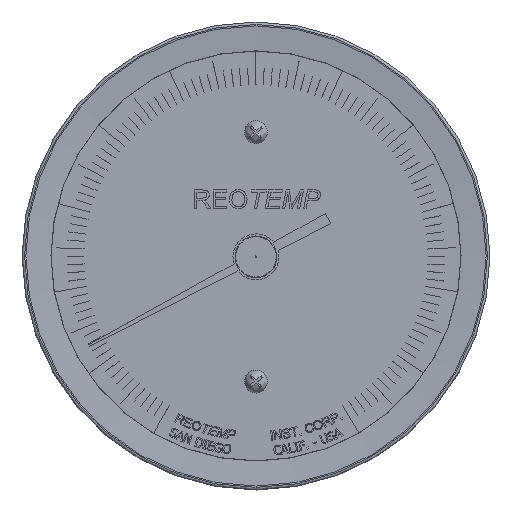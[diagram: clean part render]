
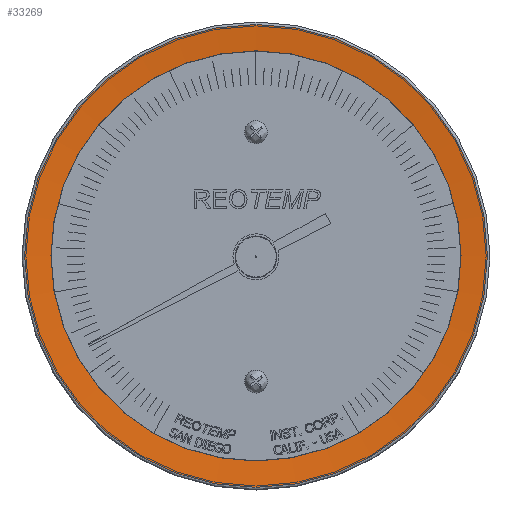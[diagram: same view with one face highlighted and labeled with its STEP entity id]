
A CAD part, top view. The second image highlights one B-rep face of the part: STEP entity #33269.
In plain terms, the highlighted conical face has half-angle 85 degrees and reference radius 36.331 mm.
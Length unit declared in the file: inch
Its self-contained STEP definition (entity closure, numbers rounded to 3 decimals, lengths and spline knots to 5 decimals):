
#10460=CONICAL_SURFACE($,#35014,1.43036,85.);
#11737=FACE_BOUND($,#13909,.T.);
#12234=FACE_OUTER_BOUND($,#13908,.T.);
#13908=EDGE_LOOP($,(#23999));
#13909=EDGE_LOOP($,(#24000));
#15991=CIRCLE($,#35013,1.33664);
#15992=CIRCLE($,#35015,1.50869);
#16080=VERTEX_POINT($,#42981);
#16081=VERTEX_POINT($,#42984);
#19238=EDGE_CURVE($,#16080,#16080,#15991,.T.);
#19239=EDGE_CURVE($,#16081,#16081,#15992,.T.);
#23999=ORIENTED_EDGE($,*,*,#19239,.F.);
#24000=ORIENTED_EDGE($,*,*,#19238,.F.);
#33269=ADVANCED_FACE($,(#12234,#11737),#10460,.F.);
#35013=AXIS2_PLACEMENT_3D($,#42982,#36453,#36454);
#35014=AXIS2_PLACEMENT_3D($,#42983,#36455,#36456);
#35015=AXIS2_PLACEMENT_3D($,#42985,#36457,#36458);
#36453=DIRECTION('center_axis',(0.,0.,
1.));
#36454=DIRECTION('ref_axis',(0.866,-0.5,0.));
#36455=DIRECTION('center_axis',(0.,0.,1.));
#36456=DIRECTION('ref_axis',(-0.866,0.5,0.));
#36457=DIRECTION('center_axis',(0.,0.,
-1.));
#36458=DIRECTION('ref_axis',(0.866,-0.5,0.));
#42981=CARTESIAN_POINT('',(3.62999,2.29392,4.8574));
#42982=CARTESIAN_POINT('Origin',(4.78755,1.6256,4.8574));
#42983=CARTESIAN_POINT('Origin',(4.78755,1.6256,4.8656));
#42984=CARTESIAN_POINT('',(3.48099,2.37994,4.87245));
#42985=CARTESIAN_POINT('Origin',(4.78755,1.6256,4.87245));
